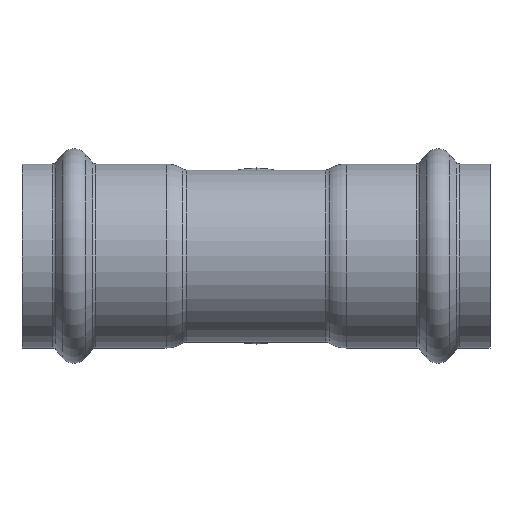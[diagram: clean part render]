
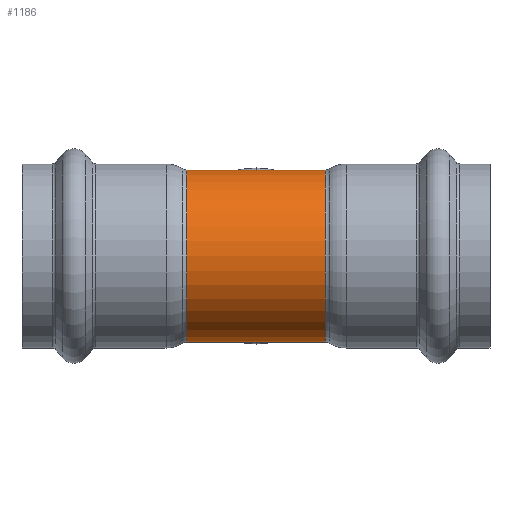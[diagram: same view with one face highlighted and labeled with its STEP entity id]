
A CAD part, front view. The second image highlights one B-rep face of the part: STEP entity #1186.
In plain terms, the highlighted cylindrical face has radius 21.5 mm (diameter 43 mm), a partial arc.
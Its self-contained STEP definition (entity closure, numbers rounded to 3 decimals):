
#246 = CARTESIAN_POINT ( 'NONE',  ( -17.289, 0., 0. ) ) ;
#313 = VERTEX_POINT ( 'NONE', #1611 ) ;
#473 = ORIENTED_EDGE ( 'NONE', *, *, #2582, .T. ) ;
#588 = DIRECTION ( 'NONE',  ( 0., 0., 1. ) ) ;
#594 = CARTESIAN_POINT ( 'NONE',  ( -17.486, 0., 21.5 ) ) ;
#649 = DIRECTION ( 'NONE',  ( 0., 0., 1. ) ) ;
#1023 = VECTOR ( 'NONE', #3540, 1000. ) ;
#1072 = CARTESIAN_POINT ( 'NONE',  ( -17.289, 0., 21.5 ) ) ;
#1186 = ADVANCED_FACE ( 'NONE', ( #2341 ), #2056, .T. ) ;
#1337 = ORIENTED_EDGE ( 'NONE', *, *, #1700, .T. ) ;
#1421 = VERTEX_POINT ( 'NONE', #1072 ) ;
#1531 = ORIENTED_EDGE ( 'NONE', *, *, #4484, .F. ) ;
#1552 = VERTEX_POINT ( 'NONE', #3621 ) ;
#1611 = CARTESIAN_POINT ( 'NONE',  ( -17.289, 0., -21.5 ) ) ;
#1654 = AXIS2_PLACEMENT_3D ( 'NONE', #4550, #2446, #588 ) ;
#1700 = EDGE_CURVE ( 'NONE', #1552, #3112, #3822, .T. ) ;
#1825 = CARTESIAN_POINT ( 'NONE',  ( -17.486, 0., 0. ) ) ;
#2056 = CYLINDRICAL_SURFACE ( 'NONE', #3860, 21.5 ) ;
#2341 = FACE_OUTER_BOUND ( 'NONE', #4982, .T. ) ;
#2358 = ORIENTED_EDGE ( 'NONE', *, *, #5043, .F. ) ;
#2401 = AXIS2_PLACEMENT_3D ( 'NONE', #246, #3170, #649 ) ;
#2446 = DIRECTION ( 'NONE',  ( -1., 0., 0. ) ) ;
#2582 = EDGE_CURVE ( 'NONE', #3112, #1421, #4378, .T. ) ;
#2984 = CARTESIAN_POINT ( 'NONE',  ( -17.486, 0., -21.5 ) ) ;
#3112 = VERTEX_POINT ( 'NONE', #4226 ) ;
#3138 = DIRECTION ( 'NONE',  ( 0., 0., 1. ) ) ;
#3170 = DIRECTION ( 'NONE',  ( -1., 0., 0. ) ) ;
#3321 = VECTOR ( 'NONE', #3414, 1000. ) ;
#3390 = CIRCLE ( 'NONE', #2401, 21.5 ) ;
#3414 = DIRECTION ( 'NONE',  ( -1., 0., 0. ) ) ;
#3540 = DIRECTION ( 'NONE',  ( -1., 0., 0. ) ) ;
#3621 = CARTESIAN_POINT ( 'NONE',  ( 17.289, 0., -21.5 ) ) ;
#3822 = CIRCLE ( 'NONE', #1654, 21.5 ) ;
#3860 = AXIS2_PLACEMENT_3D ( 'NONE', #1825, #4738, #3138 ) ;
#4226 = CARTESIAN_POINT ( 'NONE',  ( 17.289, 0., 21.5 ) ) ;
#4378 = LINE ( 'NONE', #594, #1023 ) ;
#4484 = EDGE_CURVE ( 'NONE', #1552, #313, #4701, .T. ) ;
#4550 = CARTESIAN_POINT ( 'NONE',  ( 17.289, 0., 0. ) ) ;
#4701 = LINE ( 'NONE', #2984, #3321 ) ;
#4738 = DIRECTION ( 'NONE',  ( -1., 0., 0. ) ) ;
#4982 = EDGE_LOOP ( 'NONE', ( #1531, #1337, #473, #2358 ) ) ;
#5043 = EDGE_CURVE ( 'NONE', #313, #1421, #3390, .T. ) ;
